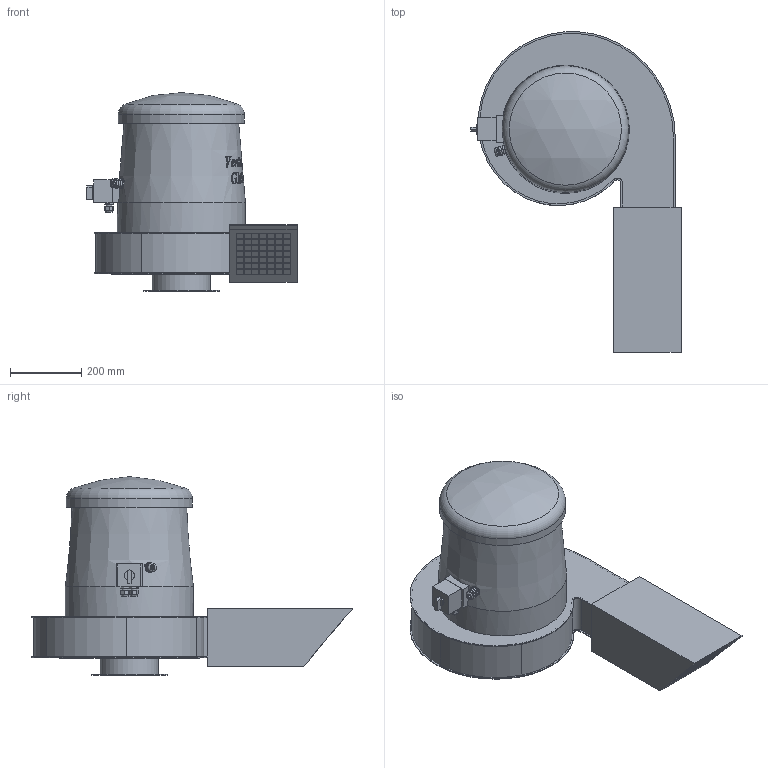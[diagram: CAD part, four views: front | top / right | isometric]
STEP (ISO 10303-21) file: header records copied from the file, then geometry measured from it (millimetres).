
FILE_DESCRIPTION(/* description */ (''),/* implementation_level */ '2;1');
FILE_NAME(/* name */ 'E:\Mariusz\Modele uproszczone\GMT-R\GMT-R_250 43552280\GMT-R_250 43552280\GMT-R_250 43552280.stp',/* time_stamp */ '2018-06-21T09:53:25+02:00',/* author */ ('M.Janczarek'),/* organization */ (''),/* preprocessor_version */ 'ST-DEVELOPER v16.5',/* originating_system */ 'Autodesk Inventor 2017',/* authorisation */ '');
FILE_SCHEMA (('AUTOMOTIVE_DESIGN { 1 0 10303 214 3 1 1 }'));
Length unit declared in the file: millimetre
Products named in the file (1): GMT-R_250 43552280
Bounding box: 591 x 900.74 x 558.5 mm (x, y, z)
Volume: 71097298.1 mm3; surface area: 1471519.1 mm2
Topology: 1 solids, 2 shells, 1072 faces, 2887 edges, 1911 vertices
Faces by surface type: plane 480, bspline 458, cylinder 78, cone 35, sphere 19, torus 2
Full cylindrical faces by diameter (mm): 7.1 x6, 10 x1, 11.5 x3, 12 x2, 13.5 x2, 14 x1, 14.5 x1, 18 x2, 20 x1, 22 x2, 24.5 x1, 27 x1, 28 x1, 160 x1, 164 x1, 215 x1, 355 x1, 360 x1, 393 x1
Entity records: 41626 total; most frequent: CARTESIAN_POINT 16829, ORIENTED_EDGE 5630, DIRECTION 3655, EDGE_CURVE 2815, VERTEX_POINT 1889, LINE 1603, VECTOR 1603, EDGE_LOOP 1252
